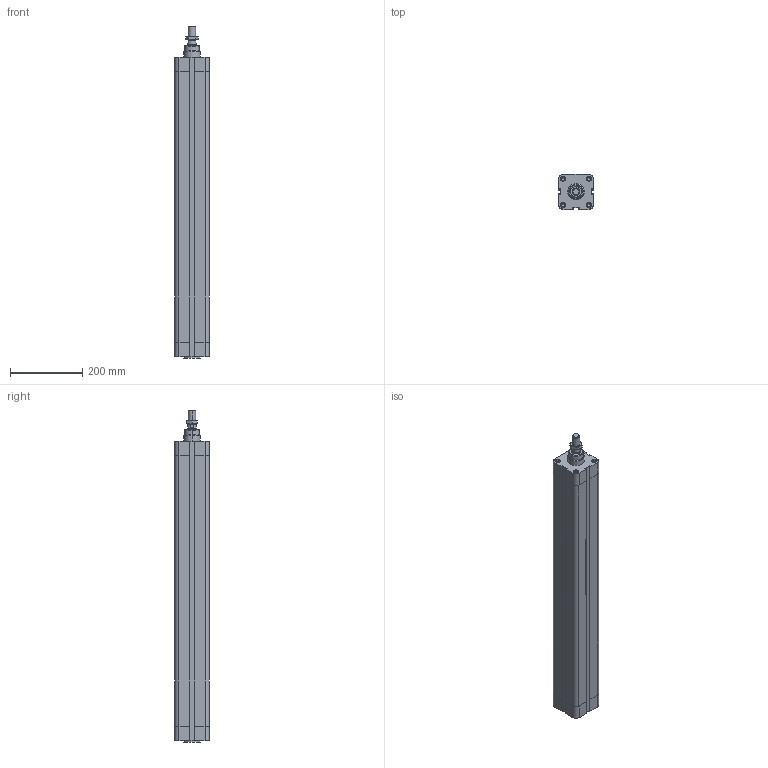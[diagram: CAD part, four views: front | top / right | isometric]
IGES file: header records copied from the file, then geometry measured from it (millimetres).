
Global section: file name: No Iges File Name specified; native system: AutoDesk Inventor R6.1; preprocessor: AutoDesk Inventor Iges Exporter R6.1; author: No Author specified; organization: No Organization specified; date: 20040107.171514; units: millimetre
Bounding box: 95.5 x 95.5 x 918 mm (x, y, z)
Volume: 7316093.2 mm3; surface area: 496425.3 mm2
Topology: 3 solids, 3 shells, 244 faces, 570 edges, 356 vertices
Faces by surface type: plane 83, bspline 67, cylinder 34, revolution 34, cone 24, torus 2
